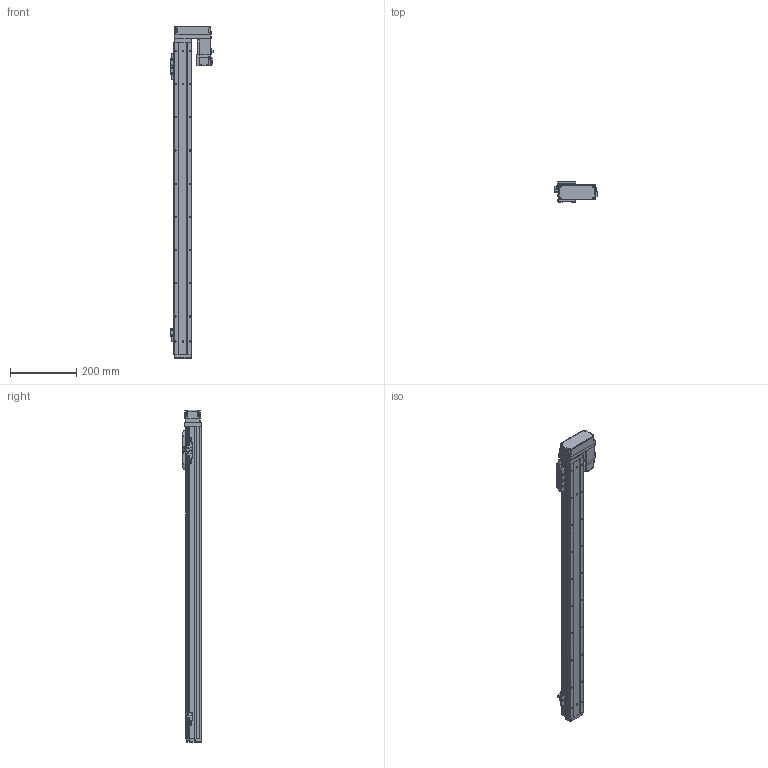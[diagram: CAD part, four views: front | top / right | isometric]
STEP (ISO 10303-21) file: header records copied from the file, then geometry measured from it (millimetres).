
FILE_DESCRIPTION (( 'STEP AP214' ), '1' );
FILE_NAME ('N_GRH5-800-BL-M10.step', '2025-03-14T09:45:57', ( '' ), ( '' ), 'SwSTEP 2.0', 'SolidWorks 2016', '' );
FILE_SCHEMA (( 'AUTOMOTIVE_DESIGN' ));
Length unit declared in the file: millimetre
Products named in the file (5): HF-KP13_100W_Motor^N_GRH5-800-BL-M10; N_GRH5-BL-008^N_GRH5-800-BL-M10; N_GRH5-GY-011^N_GRH5-800-BL-M10; N_GRH5-800-BL-M10; N_GRH5-GY-004^N_GRH5-800-BL-M10
Assembly tree (4 placements, depth 2):
  N_GRH5-800-BL-M10
    N_GRH5-GY-011^N_GRH5-800-BL-M10
    N_GRH5-GY-004^N_GRH5-800-BL-M10
    HF-KP13_100W_Motor^N_GRH5-800-BL-M10
    N_GRH5-BL-008^N_GRH5-800-BL-M10
Bounding box: 128.85 x 60 x 1000 mm (x, y, z)
Volume: 1781979 mm3; surface area: 460429.4 mm2
Topology: 4 solids, 5 shells, 954 faces, 2448 edges, 1561 vertices
Faces by surface type: plane 561, cylinder 338, cone 30, bspline 15, sphere 10
Entity records: 36325 total; most frequent: CARTESIAN_POINT 5801, DIRECTION 4953, ORIENTED_EDGE 4848, EDGE_CURVE 2424, LINE 1655, VECTOR 1655, AXIS2_PLACEMENT_3D 1649, VERTEX_POINT 1559
